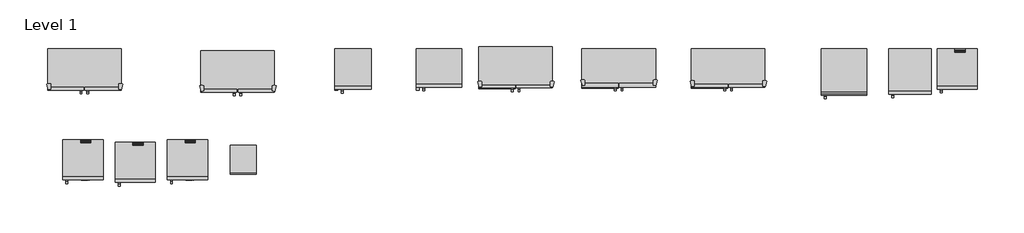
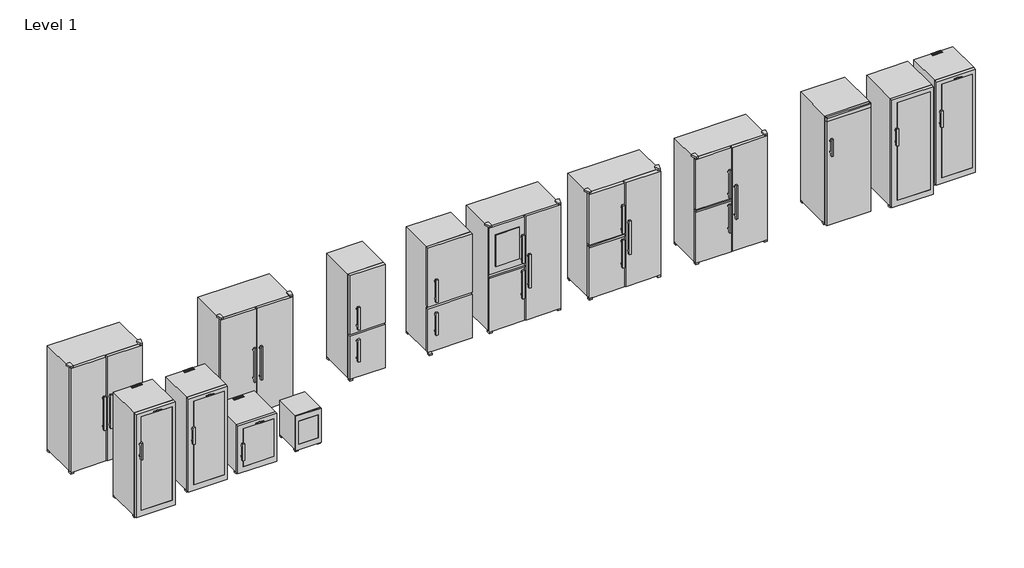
# One storey: 14 proxies.
"""IFC4 building model written with IfcOpenShell, lengths in millimetres."""

from ifc_helpers import new_model, si_unit, origin, place, context, project, spatial, transform, mapped, element, save
from components import specialty_equipment_39511ddc, specialty_equipment_d243509d, specialty_equipment_5408e7d3, specialty_equipment_ab0ed46c, specialty_equipment_bd1fe556, specialty_equipment_3c9227b6, specialty_equipment_b5ad8041, specialty_equipment_a9a47bf1, specialty_equipment_4a262d58, specialty_equipment_dc7cb6ab, specialty_equipment_9dc1592e, specialty_equipment_0063b3d1, specialty_equipment_297d572d, specialty_equipment_43d568f8

model = new_model("IFC4")

# Units and contexts
model_context = context("Model", 3, world=origin())
ifc_project = project(units=[si_unit("LENGTHUNIT", "METRE", prefix="MILLI")], contexts=[model_context])

# Site, building, storey
site = spatial("IfcSite", under=ifc_project)
building = spatial("IfcBuilding", under=site)
storey = spatial("IfcBuildingStorey", under=building, Name="Level 1", Elevation=0.0)

# Proxies
placement = place(None, origin())
specialty_equipment_shape = specialty_equipment_39511ddc(model_context)
element("IfcBuildingElementProxy", 1, Name="CNef 4315, CNPef 4516 : CNef 4315", ObjectType="CNef 4315, CNPef 4516 : CNef 4315", at=placement, inside=storey, context=model_context, shape_type="MappedRepresentation", body=[
    mapped(specialty_equipment_shape, transform((4682.702638, 664.5560119, 0.0), x_axis=(1.0, 0.0, 0.0), y_axis=(0.0, 1.0, 0.0), z_axis=(0.0, 0.0, 1.0))),
])
specialty_equipment_2_shape = specialty_equipment_d243509d(model_context)
element("IfcBuildingElementProxy", 2, Name="CNef 4315, CNPef 4516 : CNPef 4516", ObjectType="CNef 4315, CNPef 4516 : CNPef 4516", at=placement, inside=storey, context=model_context, shape_type="MappedRepresentation", body=[
    mapped(specialty_equipment_2_shape, transform((6022.702638, 664.5560119, 0.0), x_axis=(1.0, 0.0, 0.0), y_axis=(0.0, 1.0, 0.0), z_axis=(0.0, 0.0, 1.0))),
])
specialty_equipment_3_shape = specialty_equipment_5408e7d3(model_context)
element("IfcBuildingElementProxy", 3, Name="SBSes 7252, SBef 7242 : SBSes 7252", ObjectType="SBSes 7252, SBef 7242 : SBSes 7252", at=placement, inside=storey, context=model_context, shape_type="MappedRepresentation", body=[
    mapped(specialty_equipment_3_shape, transform((-37.297362, 664.5560119, 0.0), x_axis=(1.0, 0.0, 0.0), y_axis=(0.0, 1.0, 0.0), z_axis=(0.0, 0.0, 1.0))),
])
specialty_equipment_4_shape = specialty_equipment_ab0ed46c(model_context)
element("IfcBuildingElementProxy", 4, Name="SBSes 7252, SBef 7242 : SBSef 7242", ObjectType="SBSes 7252, SBef 7242 : SBSef 7242", at=placement, inside=storey, context=model_context, shape_type="MappedRepresentation", body=[
    mapped(specialty_equipment_4_shape, transform((2482.702638, 634.7214813, 0.0), x_axis=(1.0, 0.0, 0.0), y_axis=(0.0, 1.0, 0.0), z_axis=(0.0, 0.0, 1.0))),
])
specialty_equipment_5_shape = specialty_equipment_bd1fe556(model_context)
element("IfcBuildingElementProxy", 5, Name="SBSbs 7353, SBSes 7353 : SBSbs 7353", ObjectType="SBSbs 7353, SBSes 7353 : SBSbs 7353", at=placement, inside=storey, context=model_context, shape_type="MappedRepresentation", body=[
    mapped(specialty_equipment_5_shape, transform((8750.8752505, 664.5560119, 0.0), x_axis=(1.0, 0.0, 0.0), y_axis=(0.0, 1.0, 0.0), z_axis=(0.0, 0.0, 1.0))),
])
specialty_equipment_6_shape = specialty_equipment_3c9227b6(model_context)
element("IfcBuildingElementProxy", 6, Name="SBSbs 7353, SBSes 7353 : SBSes 7353", ObjectType="SBSbs 7353, SBSes 7353 : SBSes 7353", at=placement, inside=storey, context=model_context, shape_type="MappedRepresentation", body=[
    mapped(specialty_equipment_6_shape, transform((10550.8752505, 664.5560119, 0.0), x_axis=(1.0, 0.0, 0.0), y_axis=(0.0, 1.0, 0.0), z_axis=(0.0, 0.0, 1.0))),
])
specialty_equipment_7_shape = specialty_equipment_b5ad8041(model_context)
element("IfcBuildingElementProxy", 7, Name="WKt 6451 : WKt 6451", ObjectType="WKt 6451 : WKt 6451", at=placement, inside=storey, context=model_context, shape_type="MappedRepresentation", body=[
    mapped(specialty_equipment_7_shape, transform((12685.781919, 664.5560119, -182.0), x_axis=(1.0, 0.0, 0.0), y_axis=(0.0, 1.0, 0.0), z_axis=(0.0, 0.0, 1.0))),
])
specialty_equipment_8_shape = specialty_equipment_a9a47bf1(model_context)
element("IfcBuildingElementProxy", 8, Name="WKb : WKb 4611", ObjectType="WKb : WKb 4611", at=placement, inside=storey, context=model_context, shape_type="MappedRepresentation", body=[
    mapped(specialty_equipment_8_shape, transform((215.7088759, -825.5850126, -261.0), x_axis=(1.0, 0.0, 0.0), y_axis=(0.0, 1.0, 0.0), z_axis=(0.0, 0.0, 1.0))),
])
specialty_equipment_9_shape = specialty_equipment_4a262d58(model_context)
element("IfcBuildingElementProxy", 9, Name="ZKes 453_136 : WKes 653", ObjectType="ZKes 453_136 : WKes 653", at=placement, inside=storey, context=model_context, shape_type="MappedRepresentation", body=[
    mapped(specialty_equipment_9_shape, transform((2969.5109483, -920.369614, -1313.0), x_axis=(1.0, 0.0, 0.0), y_axis=(0.0, 1.0, 0.0), z_axis=(0.0, 0.0, 1.0))),
])
specialty_equipment_10_shape = specialty_equipment_dc7cb6ab(model_context)
element("IfcBuildingElementProxy", 10, Name="Wkb 1712_049 : WKb 1712", ObjectType="Wkb 1712_049 : WKb 1712", at=placement, inside=storey, context=model_context, shape_type="MappedRepresentation", body=[
    mapped(specialty_equipment_10_shape, transform((1935.7088759, -825.5850126, -1075.0), x_axis=(1.0, 0.0, 0.0), y_axis=(0.0, 1.0, 0.0), z_axis=(0.0, 0.0, 1.0))),
])
specialty_equipment_11_shape = specialty_equipment_9dc1592e(model_context)
element("IfcBuildingElementProxy", 11, Name="Wkb 4112_049 : WKb 4112", ObjectType="Wkb 4112_049 : WKb 4112", at=placement, inside=storey, context=model_context, shape_type="MappedRepresentation", body=[
    mapped(specialty_equipment_11_shape, transform((1075.7088759, -865.5850126, -261.0), x_axis=(1.0, 0.0, 0.0), y_axis=(0.0, 1.0, 0.0), z_axis=(0.0, 0.0, 1.0))),
])
specialty_equipment_12_shape = specialty_equipment_0063b3d1(model_context)
element("IfcBuildingElementProxy", 12, Name="Wkb 4612_049 : WKb 4612", ObjectType="Wkb 4612_049 : WKb 4612", at=placement, inside=storey, context=model_context, shape_type="MappedRepresentation", body=[
    mapped(specialty_equipment_12_shape, transform((14594.9217569, 664.5560119, -261.0), x_axis=(1.0, 0.0, 0.0), y_axis=(0.0, 1.0, 0.0), z_axis=(0.0, 0.0, 1.0))),
])
specialty_equipment_13_shape = specialty_equipment_297d572d(model_context)
element("IfcBuildingElementProxy", 13, Name="WTes 5872_136 : WTes 5872", ObjectType="WTes 5872_136 : WTes 5872", at=placement, inside=storey, context=model_context, shape_type="MappedRepresentation", body=[
    mapped(specialty_equipment_13_shape, transform((13798.557625, 664.5560119, -261.0), x_axis=(1.0, 0.0, 0.0), y_axis=(0.0, 1.0, 0.0), z_axis=(0.0, 0.0, 1.0))),
])
specialty_equipment_14_shape = specialty_equipment_43d568f8(model_context)
element("IfcBuildingElementProxy", 14, Name="SBSes 7165_049 : SBSes 7165", ObjectType="SBSes 7165_049 : SBSes 7165", at=placement, inside=storey, context=model_context, shape_type="MappedRepresentation", body=[
    mapped(specialty_equipment_14_shape, transform((7055.8752505, 704.5560119, 0.0), x_axis=(1.0, 0.0, 0.0), y_axis=(0.0, 1.0, 0.0), z_axis=(0.0, 0.0, 1.0))),
])

save(model, "model.ifc")
